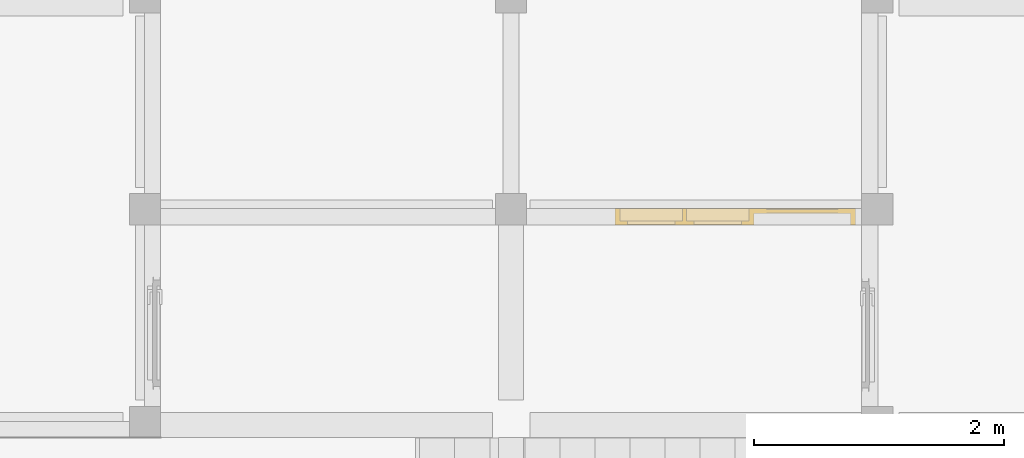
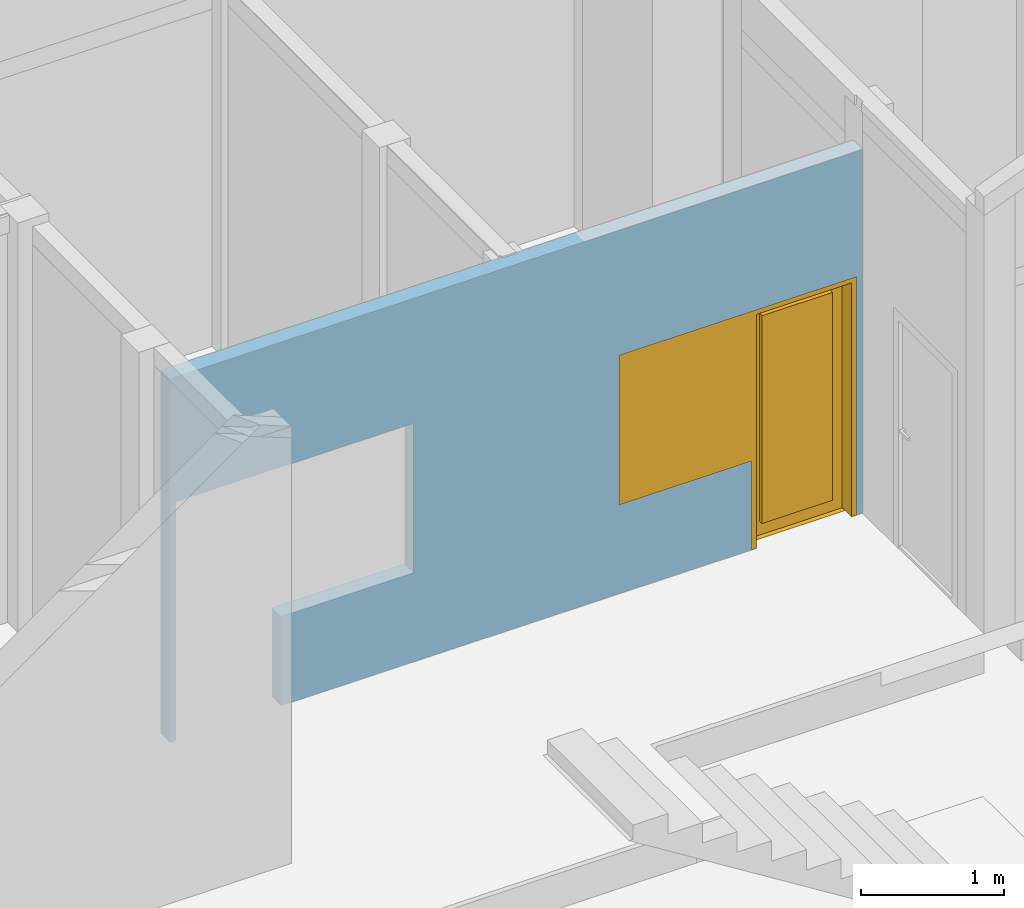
# One storey, part 4 of 8: 1 door, 2 openings, plus 1 element that does not belong to this part.
"""IFC4X3_ADD2 building model written with IfcOpenShell, lengths in millimetres."""

from ifc_helpers import new_model, entity, si_unit, converted_unit, frame, origin_with_axes, origin_2d_with_axis, place, context, subcontext, project, spatial, line, indexed_curve, outline, extrude, polygons, source, transform, mapped, material, layer, layer_set, layer_usage, type_object, type_shapes, element, fill, save


model = new_model("IFC4X3_ADD2")

# Units and contexts
model_context = context("Model", 3, precision=1e-05, world=origin_with_axes())
plan_context = context("Plan", 2, precision=1e-05, world=origin_2d_with_axis())
body_context = subcontext(model_context, "Body", "Model", "MODEL_VIEW")
ifc_project = project(units=[si_unit("VOLUMEUNIT", "CUBIC_METRE"), si_unit("LENGTHUNIT", "METRE", prefix="MILLI"), converted_unit("PLANEANGLEUNIT", "degree", entity("IfcReal", 0.0174532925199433), si_unit("PLANEANGLEUNIT", "RADIAN"), dimensions=[0, 0, 0, 0, 0, 0, 0]), si_unit("AREAUNIT", "SQUARE_METRE")], contexts=[model_context, plan_context])

# Site, building, storey
site_placement = place(None, origin_with_axes())
site = spatial("IfcSite", under=ifc_project, at=site_placement, Name="My Site")
building_placement = place(site_placement, origin_with_axes())
building = spatial("IfcBuilding", under=site, at=building_placement, Name="My Building")
storey_placement = place(building_placement, origin_with_axes())
storey = spatial("IfcBuildingStorey", under=building, at=storey_placement, Name="Lantai 2")

# Wall, openings, door
ifc_material_1 = material(Name="plester")
ifc_layer_1 = layer(ifc_material_1, 15.0000009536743, Priority=1)
ifc_material_2 = material(Name="brick", Category="Uncategorised")
ifc_layer_2 = layer(ifc_material_2, 100.0, Priority=4)
ifc_layer_3 = layer(ifc_material_1, 15.0000009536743)
ifc_layer_set = layer_set([ifc_layer_1, ifc_layer_2, ifc_layer_3])
ifc_layer_usage = layer_usage(ifc_layer_set, "AXIS2", "NEGATIVE", 0.0)
wall_type = type_object("IfcWallType", Name="WALL-130", PredefinedType="SOLIDWALL", material=ifc_layer_set)
wall_placement = place(storey_placement, frame((8520.00086834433, 1549.99983310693, 3500.00023841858), z_axis=(0.0, 0.0, 1.0), x_axis=(-0.999999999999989, 1.50995802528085e-07, 0.0)))
wall = element("IfcWall", 1, at=wall_placement, inside=storey, type_object=wall_type, material=ifc_layer_usage, Name="Wall", context=body_context, shape_type="SweptSolid", body=[
    extrude(outline(indexed_curve([(-1.17678988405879e-05, -130.000001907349), (-1.04100642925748e-05, -115.000000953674), (-15.0000113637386, -115.000000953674), (-15.0000023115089, -15.0000009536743), (-1.35783454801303e-06, -15.0000009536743), (0.0, 0.0), (5600.00099997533, 0.0), (5600.00099997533, -130.000001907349), (2850.0005965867, -130.000001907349), (2850.00059724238, -115.000000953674), (2735.0005962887, -115.000000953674), (2735.00059563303, -130.000001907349)], segments=[line(1, 2, 3, 4, 5, 6, 7, 8, 9, 10, 11, 12, 1)])), origin_with_axes(), (0.0, 0.0, 1.0), 3107.2108745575),
])
shared_shape_1 = source(origin_with_axes(), body_context, "Body", "SweptSolid", [
    extrude(outline(indexed_curve([(850.000183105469, 0.0), (0.0, 0.0), (0.0, 2039.99987792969), (1920.0, 2039.99987792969), (1920.0, 759.999938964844), (850.000183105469, 759.999938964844), (850.000183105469, 0.0)])), frame((-9.53674259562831e-07, -600.0, 0.0), z_axis=(0.0, -1.0, 0.0), x_axis=(1.0, 0.0, 0.0)), (0.0, 0.0, -1.0), 1200.0),
])
opening_1_placement = place(wall_placement, frame((5549.99940965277, -2.84826399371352, 0.0), z_axis=(0.0, 0.0, 1.0), x_axis=(-0.999999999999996, 8.74227765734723e-08, 0.0)))
element("IfcOpeningElement", 2, at=opening_1_placement, cuts=wall, Name="Opening", PredefinedType="OPENING", context=body_context, shape_type="MappedRepresentation", body=[
    mapped(shared_shape_1, transform((0.0, 0.0, 0.0), x_axis=(1.0, 0.0, 0.0), y_axis=(0.0, 1.0, 0.0), z_axis=(0.0, 0.0, 1.0), scale=1.0)),
])
shared_shape_2 = source(origin_with_axes(), body_context, "Body", "SweptSolid", [
    extrude(outline(indexed_curve([(849.998352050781, 759.999755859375), (1919.99755859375, 759.999755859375), (1919.99755859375, 2039.99987792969), (0.0, 2039.99987792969), (0.0, 0.0), (849.998352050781, -3.23401396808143e-12), (849.998352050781, 759.999755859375)])), frame((0.0, -600.0, 0.0), z_axis=(0.0, -1.0, 0.0), x_axis=(1.0, 0.0, 0.0)), (0.0, 0.0, -1.0), 1200.0),
])
opening_2_placement = place(wall_placement, frame((50.0006209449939, -130.0001068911, 0.0), z_axis=(0.0, 0.0, 1.0), x_axis=(1.0, 2.64697796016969e-23, 0.0)))
opening_2 = element("IfcOpeningElement", 3, at=opening_2_placement, cuts=wall, Name="Opening", PredefinedType="OPENING", context=body_context, shape_type="MappedRepresentation", body=[
    mapped(shared_shape_2, transform((0.0, 0.0, 0.0), x_axis=(1.0, 0.0, 0.0), y_axis=(0.0, 1.0, 0.0), z_axis=(0.0, 0.0, 1.0), scale=1.0)),
])
ifc_material_3 = material(Name="Kayu")
door_type = type_object("IfcDoorType", Name="xxxx", OperationType="NOTDEFINED", PredefinedType="DOOR")
shared_shape_3 = source(origin_with_axes(), body_context, "Body", "Tessellation", [
    polygons([(0.0, 130.000091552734, 1999.99926757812), (0.0, 130.000091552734, 0.0), (40.0009078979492, 130.000091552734, 0.0), (40.0009078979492, 130.000091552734, 1999.99926757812), (40.0009078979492, 130.000091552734, 2039.99987792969), (0.0, 130.000091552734, 2039.99987792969), (810.001281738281, 130.000091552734, 1999.99926757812), (810.001281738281, 130.000091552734, 2039.99987792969), (849.998352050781, 130.000091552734, 1999.99926757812), (849.998352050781, 130.000091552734, 2039.99987792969), (810.001281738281, 130.000091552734, 759.999877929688), (810.001281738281, 130.000091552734, 0.0), (849.998352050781, 130.000091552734, 0.0), (849.998352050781, 130.000091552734, 759.999877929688), (1349.99829101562, 130.000091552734, 1999.99926757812), (1349.99829101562, 130.000091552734, 2039.99987792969), (1380.00085449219, 130.000091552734, 1999.99926757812), (1380.00085449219, 130.000091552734, 2039.99987792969), (1349.99829101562, 130.000091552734, 799.999816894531), (1380.00085449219, 130.000091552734, 799.999816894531), (1880.00085449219, 129.999633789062, 1999.99926757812), (1880.00085449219, 129.999633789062, 2039.99987792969), (1919.99792480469, 129.999633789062, 1999.99926757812), (1919.99792480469, 129.999633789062, 2039.99987792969), (1880.00085449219, 129.999633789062, 799.999816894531), (1919.99792480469, 129.999633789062, 799.999816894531), (1880.00085449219, 129.999633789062, 759.999877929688), (1919.99792480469, 129.999633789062, 759.999877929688), (1349.99829101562, 130.000091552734, 759.999877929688), (1380.00085449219, 130.000091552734, 759.999877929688), (810.001281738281, 130.000091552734, 799.999816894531), (849.998352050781, 130.000091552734, 799.999816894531), (0.0, 0.0, 0.0), (40.0009078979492, 0.0, 1999.99926757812), (40.0009078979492, 0.0, 0.0), (0.0, 0.0, 1999.99926757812), (0.0, 0.0, 2039.99987792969), (40.0009078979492, 0.0, 2039.99987792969), (810.001281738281, 0.0, 2039.99987792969), (810.001281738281, 0.0, 1999.99926757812), (849.998352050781, 0.0, 2039.99987792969), (849.998352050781, 0.0, 1999.99926757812), (810.001281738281, 0.0, 0.0), (810.001281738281, 0.0, 759.999877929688), (849.998352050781, 0.0, 759.999877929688), (849.998352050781, 0.0, 0.0), (1349.99829101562, 0.0, 2039.99987792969), (1349.99829101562, 0.0, 1999.99926757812), (1380.00085449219, 0.0, 2039.99987792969), (1380.00085449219, 0.0, 1999.99926757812), (1349.99829101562, 0.0, 799.999816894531), (1380.00085449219, 0.0, 799.999816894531), (1880.00085449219, 0.0, 2039.99987792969), (1880.00085449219, 0.0, 1999.99926757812), (1919.99792480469, 0.0, 2039.99987792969), (1919.99792480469, 0.0, 1999.99926757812), (1880.00085449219, 0.0, 799.999816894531), (1919.99792480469, 0.0, 799.999816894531), (1880.00085449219, 0.0, 759.999877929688), (1919.99792480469, 0.0, 759.999877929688), (1349.99829101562, 0.0, 759.999877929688), (1380.00085449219, 0.0, 759.999877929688), (810.001281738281, 0.0, 799.999816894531), (849.998352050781, 0.0, 799.999816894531)], [[[3, 1, 2]], [[3, 4, 1]], [[6, 4, 5]], [[6, 1, 4]], [[5, 4, 7]], [[7, 8, 5]], [[7, 9, 8]], [[9, 10, 8]], [[13, 11, 12]], [[13, 14, 11]], [[10, 9, 15]], [[15, 16, 10]], [[15, 17, 16]], [[17, 18, 16]], [[20, 15, 19]], [[15, 20, 17]], [[18, 17, 21]], [[18, 21, 22]], [[21, 23, 22]], [[23, 24, 22]], [[26, 21, 25]], [[21, 26, 23]], [[28, 25, 27]], [[25, 28, 26]], [[30, 19, 29]], [[19, 30, 20]], [[11, 14, 31]], [[31, 14, 32]], [[32, 7, 31]], [[7, 32, 9]], [[14, 29, 19]], [[32, 14, 19]], [[25, 20, 27]], [[20, 30, 27]], [[34, 35, 33]], [[36, 34, 33]], [[38, 36, 37]], [[36, 38, 34]], [[39, 34, 38]], [[39, 40, 34]], [[39, 41, 40]], [[41, 42, 40]], [[45, 43, 44]], [[45, 46, 43]], [[42, 41, 47]], [[47, 48, 42]], [[47, 49, 48]], [[49, 50, 48]], [[48, 50, 51]], [[51, 50, 52]], [[50, 49, 53]], [[53, 54, 50]], [[53, 55, 54]], [[55, 56, 54]], [[54, 56, 57]], [[57, 56, 58]], [[57, 58, 59]], [[59, 58, 60]], [[51, 52, 61]], [[61, 52, 62]], [[64, 44, 63]], [[44, 64, 45]], [[40, 42, 63]], [[63, 42, 64]], [[45, 64, 51]], [[51, 61, 45]], [[62, 52, 57]], [[62, 57, 59]], [[15, 48, 19]], [[48, 51, 19]], [[52, 17, 20]], [[17, 52, 50]], [[41, 8, 10]], [[8, 41, 39]], [[21, 17, 50]], [[54, 21, 50]], [[13, 12, 43]], [[43, 46, 13]], [[11, 44, 12]], [[12, 44, 43]], [[3, 35, 4]], [[4, 35, 34]], [[53, 18, 22]], [[18, 53, 49]], [[7, 40, 31]], [[40, 63, 31]], [[1, 36, 2]], [[2, 36, 33]], [[24, 23, 56]], [[24, 56, 55]], [[13, 46, 14]], [[14, 46, 45]], [[63, 11, 31]], [[11, 63, 44]], [[3, 2, 33]], [[33, 35, 3]], [[55, 22, 24]], [[22, 55, 53]], [[15, 9, 42]], [[48, 15, 42]], [[64, 9, 32]], [[9, 64, 42]], [[38, 6, 5]], [[6, 38, 37]], [[47, 10, 16]], [[10, 47, 41]], [[21, 54, 25]], [[54, 57, 25]], [[29, 14, 45]], [[61, 29, 45]], [[37, 1, 6]], [[1, 37, 36]], [[58, 23, 26]], [[23, 58, 56]], [[32, 19, 51]], [[64, 32, 51]], [[30, 29, 61]], [[61, 62, 30]], [[49, 16, 18]], [[16, 49, 47]], [[62, 27, 30]], [[27, 62, 59]], [[7, 4, 34]], [[40, 7, 34]], [[28, 27, 59]], [[59, 60, 28]], [[57, 20, 25]], [[20, 57, 52]], [[39, 5, 8]], [[5, 39, 38]], [[60, 26, 28]], [[26, 60, 58]]]),
    polygons([(1349.99829101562, 99.9998931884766, 1939.99938964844), (1349.99829101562, 130.000091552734, 1939.99938964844), (1349.99829101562, 130.000091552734, 1999.99926757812), (1349.99829101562, 99.9998931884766, 859.999694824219), (1349.99829101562, 99.9998931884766, 1999.99926757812), (1290.00073242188, 99.9998931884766, 1939.99938964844), (1290.00073242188, 99.9998931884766, 859.999694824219), (909.999755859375, 99.9998931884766, 859.999694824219), (909.999755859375, 130.000091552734, 859.999694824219), (909.999755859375, 99.9998931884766, 799.999694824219), (1290.00073242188, 99.9998931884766, 799.999694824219), (1290.00073242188, 130.000091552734, 859.999694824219), (1290.00073242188, 130.000091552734, 799.999694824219), (1349.99829101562, 130.000091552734, 799.999694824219), (1349.99829101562, 130.000091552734, 859.999694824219), (1290.00073242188, 130.000091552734, 1939.99938964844), (1290.00073242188, 130.000091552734, 1999.99926757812), (909.999755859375, 130.000091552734, 1999.99926757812), (909.999755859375, 130.000091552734, 1939.99938964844), (909.999755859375, 99.9998931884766, 1939.99938964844), (1290.00073242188, 99.9998931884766, 1999.99926757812), (909.999755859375, 99.9998931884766, 1999.99926757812), (849.998352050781, 99.9998931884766, 1939.99938964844), (849.998352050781, 99.9998931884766, 859.999694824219), (849.998352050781, 130.000091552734, 859.999694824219), (849.998352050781, 99.9998931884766, 799.999694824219), (849.998352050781, 130.000091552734, 799.999694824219), (909.999755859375, 130.000091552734, 799.999694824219), (849.998352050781, 130.000091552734, 1939.99938964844), (849.998352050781, 130.000091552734, 1999.99926757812), (849.998352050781, 99.9998931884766, 1999.99926757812), (1349.99829101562, 99.9998931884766, 799.999694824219)], [[[2, 4, 1]], [[1, 3, 2]], [[3, 1, 5]], [[7, 1, 4]], [[6, 5, 1]], [[6, 1, 7]], [[10, 8, 7]], [[8, 9, 7]], [[9, 12, 7]], [[10, 7, 11]], [[4, 11, 7]], [[12, 6, 7]], [[9, 13, 12]], [[14, 12, 13]], [[14, 15, 12]], [[15, 16, 12]], [[16, 6, 12]], [[15, 2, 16]], [[2, 17, 16]], [[18, 16, 17]], [[18, 19, 16]], [[16, 19, 20]], [[16, 20, 6]], [[20, 21, 6]], [[21, 20, 22]], [[23, 22, 20]], [[23, 20, 24]], [[24, 20, 8]], [[19, 8, 20]], [[25, 23, 24]], [[25, 24, 27]], [[27, 24, 26]], [[26, 24, 8]], [[26, 28, 27]], [[28, 25, 27]], [[13, 28, 10]], [[10, 28, 26]], [[9, 28, 13]], [[28, 9, 25]], [[8, 10, 26]], [[29, 23, 25]], [[25, 9, 29]], [[31, 29, 30]], [[30, 29, 19]], [[9, 19, 29]], [[29, 31, 23]], [[23, 31, 22]], [[31, 30, 22]], [[22, 30, 18]], [[19, 18, 30]], [[22, 18, 21]], [[17, 5, 21]], [[5, 6, 21]], [[18, 17, 21]], [[9, 8, 19]], [[17, 2, 3]], [[5, 17, 3]], [[15, 4, 2]], [[15, 32, 4]], [[14, 32, 15]], [[11, 4, 32]], [[32, 14, 11]], [[11, 14, 13]], [[13, 10, 11]]]),
    polygons([(139.999359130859, 39.9999542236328, 119.999992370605), (709.998962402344, 39.9999542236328, 119.999992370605), (139.999359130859, 0.0, 119.999992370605), (139.999359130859, 0.0, 1899.99914550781), (139.999359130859, 39.9999542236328, 1899.99914550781), (40.0009078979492, 39.9999542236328, 119.999992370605), (40.0009078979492, 39.9999542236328, 0.0), (139.999359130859, 39.9999542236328, 0.0), (139.999359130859, 0.0, 0.0), (709.998962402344, 0.0, 0.0), (709.998962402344, 39.9999542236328, 0.0), (809.997436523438, 0.0, 0.0), (809.997436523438, 39.9999542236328, 0.0), (809.997436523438, 39.9999542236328, 119.999992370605), (809.997436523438, 0.0, 119.999992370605), (809.997436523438, 0.0, 1899.99914550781), (809.997436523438, 39.9999542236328, 1899.99914550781), (809.997436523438, 0.0, 1999.99926757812), (809.997436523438, 39.9999542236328, 1999.99926757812), (709.998962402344, 39.9999542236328, 1899.99914550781), (709.998962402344, 39.9999542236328, 1999.99926757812), (709.998962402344, 0.0, 1899.99914550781), (709.998962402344, 0.0, 119.999992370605), (709.998962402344, 0.0, 1999.99926757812), (139.999359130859, 0.0, 1999.99926757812), (139.999359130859, 39.9999542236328, 1999.99926757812), (40.0009078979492, 0.0, 1999.99926757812), (40.0009078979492, 39.9999542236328, 1999.99926757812), (40.0009078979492, 0.0, 1899.99914550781), (40.0009078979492, 0.0, 119.999992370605), (40.0009078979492, 39.9999542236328, 1899.99914550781), (40.0009078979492, 0.0, 0.0)], [[[8, 1, 2]], [[2, 1, 3]], [[1, 4, 3]], [[5, 4, 1]], [[5, 1, 6]], [[1, 7, 6]], [[7, 1, 8]], [[9, 7, 8]], [[9, 8, 10]], [[10, 8, 11]], [[8, 2, 11]], [[11, 12, 10]], [[11, 13, 12]], [[11, 14, 13]], [[2, 14, 11]], [[14, 15, 13]], [[14, 16, 15]], [[17, 16, 14]], [[2, 17, 14]], [[17, 18, 16]], [[19, 18, 17]], [[19, 17, 20]], [[20, 17, 2]], [[21, 19, 20]], [[5, 21, 20]], [[22, 5, 20]], [[20, 23, 22]], [[2, 23, 20]], [[10, 23, 3]], [[23, 2, 3]], [[10, 12, 23]], [[23, 12, 15]], [[23, 15, 22]], [[22, 15, 16]], [[22, 16, 24]], [[25, 22, 24]], [[25, 4, 22]], [[4, 5, 22]], [[24, 21, 25]], [[25, 21, 26]], [[25, 26, 27]], [[27, 4, 25]], [[29, 4, 27]], [[27, 26, 28]], [[28, 29, 27]], [[29, 3, 4]], [[30, 3, 29]], [[31, 30, 29]], [[29, 28, 31]], [[26, 5, 31]], [[26, 31, 28]], [[6, 30, 31]], [[31, 5, 6]], [[9, 3, 30]], [[32, 9, 30]], [[6, 32, 30]], [[7, 32, 6]], [[32, 7, 9]], [[21, 5, 26]], [[24, 16, 18]], [[18, 19, 24]], [[24, 19, 21]], [[13, 15, 12]], [[3, 9, 10]]]),
    polygons([(139.999359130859, 35.000316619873, 119.999992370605), (709.998962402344, 34.9998397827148, 119.999992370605), (139.999359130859, 5.00011348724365, 119.999992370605), (139.999359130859, 5.00011348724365, 1899.99914550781), (139.999359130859, 35.000316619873, 1899.99914550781), (709.998962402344, 5.00011348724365, 1899.99914550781), (709.998962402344, 34.9998397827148, 1899.99914550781), (709.998962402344, 5.00011348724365, 119.999992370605)], [[[5, 1, 2]], [[2, 1, 3]], [[1, 4, 3]], [[5, 4, 1]], [[4, 5, 6]], [[6, 5, 7]], [[2, 7, 5]], [[7, 8, 6]], [[2, 8, 7]], [[3, 6, 8]], [[8, 2, 3]], [[6, 3, 4]]]),
    polygons([(1290.00073242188, 130.000091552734, 1939.99938964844), (909.999755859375, 130.000091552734, 1939.99938964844), (1290.00073242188, 124.999984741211, 1939.99938964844), (1290.00073242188, 124.999984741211, 859.999694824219), (1290.00073242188, 130.000091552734, 859.999694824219), (909.999755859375, 124.999984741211, 859.999694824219), (909.999755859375, 130.000091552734, 859.999694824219), (909.999755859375, 124.999984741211, 1939.99938964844)], [[[2, 5, 1]], [[2, 1, 3]], [[1, 4, 3]], [[5, 4, 1]], [[5, 6, 4]], [[6, 5, 7]], [[7, 5, 2]], [[7, 8, 6]], [[2, 8, 7]], [[8, 3, 6]], [[8, 2, 3]], [[6, 3, 4]]]),
    polygons([(1879.9970703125, 99.9998931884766, 1939.99938964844), (1879.9970703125, 129.999633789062, 1939.99938964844), (1879.9970703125, 129.999633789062, 1999.99926757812), (1879.9970703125, 99.9998931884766, 859.999694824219), (1879.9970703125, 99.9998931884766, 1999.99926757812), (1819.99951171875, 99.9998931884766, 1939.99938964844), (1819.99951171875, 99.9998931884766, 859.999694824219), (1439.99841308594, 99.9998931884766, 859.999694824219), (1439.99841308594, 130.000091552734, 859.999694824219), (1439.99841308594, 99.9998931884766, 799.999694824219), (1819.99951171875, 99.9998931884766, 799.999694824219), (1819.99951171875, 129.999633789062, 859.999694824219), (1819.99951171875, 129.999633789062, 799.999694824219), (1879.9970703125, 129.999633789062, 799.999694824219), (1879.9970703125, 129.999633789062, 859.999694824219), (1819.99951171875, 129.999633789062, 1939.99938964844), (1819.99951171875, 129.999633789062, 1999.99926757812), (1439.99841308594, 130.000091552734, 1999.99926757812), (1439.99841308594, 130.000091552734, 1939.99938964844), (1439.99841308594, 99.9998931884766, 1939.99938964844), (1819.99951171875, 99.9998931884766, 1999.99926757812), (1439.99841308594, 99.9998931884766, 1999.99926757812), (1379.9970703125, 99.9998931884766, 1939.99938964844), (1379.9970703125, 99.9998931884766, 859.999694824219), (1379.9970703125, 130.000091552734, 859.999694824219), (1379.9970703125, 99.9998931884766, 799.999694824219), (1379.9970703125, 130.000091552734, 799.999694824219), (1439.99841308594, 130.000091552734, 799.999694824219), (1379.9970703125, 130.000091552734, 1939.99938964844), (1379.9970703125, 130.000091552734, 1999.99926757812), (1379.9970703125, 99.9998931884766, 1999.99926757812), (1879.9970703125, 99.9998931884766, 799.999694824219)], [[[2, 4, 1]], [[1, 3, 2]], [[3, 1, 5]], [[7, 1, 4]], [[6, 5, 1]], [[6, 1, 7]], [[10, 8, 7]], [[8, 9, 7]], [[9, 12, 7]], [[10, 7, 11]], [[4, 11, 7]], [[12, 6, 7]], [[14, 12, 13]], [[12, 9, 13]], [[14, 15, 12]], [[15, 16, 12]], [[16, 6, 12]], [[15, 2, 16]], [[2, 17, 16]], [[17, 18, 16]], [[18, 19, 16]], [[16, 19, 20]], [[16, 20, 6]], [[20, 21, 6]], [[21, 20, 22]], [[23, 22, 20]], [[23, 20, 24]], [[24, 20, 8]], [[19, 8, 20]], [[25, 23, 24]], [[25, 24, 27]], [[27, 24, 26]], [[26, 24, 8]], [[26, 28, 27]], [[28, 25, 27]], [[13, 28, 10]], [[10, 28, 26]], [[9, 28, 13]], [[28, 9, 25]], [[8, 10, 26]], [[29, 23, 25]], [[25, 9, 29]], [[31, 29, 30]], [[30, 29, 19]], [[9, 19, 29]], [[29, 31, 23]], [[23, 31, 22]], [[31, 30, 22]], [[22, 30, 18]], [[19, 18, 30]], [[22, 18, 21]], [[17, 5, 21]], [[5, 6, 21]], [[18, 17, 21]], [[9, 8, 19]], [[17, 2, 3]], [[5, 17, 3]], [[15, 4, 2]], [[15, 32, 4]], [[14, 32, 15]], [[11, 4, 32]], [[32, 14, 11]], [[11, 14, 13]], [[13, 10, 11]]]),
    polygons([(1819.99951171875, 129.999633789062, 1939.99938964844), (1439.99841308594, 130.000091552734, 1939.99938964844), (1819.99951171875, 124.999984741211, 1939.99938964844), (1819.99951171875, 124.999984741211, 859.999694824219), (1819.99951171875, 129.999633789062, 859.999694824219), (1439.99841308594, 124.999984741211, 859.999694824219), (1439.99841308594, 130.000091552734, 859.999694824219), (1439.99841308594, 124.999984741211, 1939.99938964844)], [[[1, 2, 5]], [[2, 1, 3]], [[1, 4, 3]], [[5, 4, 1]], [[5, 6, 4]], [[6, 5, 7]], [[2, 7, 5]], [[7, 8, 6]], [[2, 8, 7]], [[8, 3, 6]], [[8, 2, 3]], [[6, 3, 4]]]),
])
type_shapes(door_type, [shared_shape_3])
door_placement = place(opening_2_placement, frame((-1.77635683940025e-12, 2.22044604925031e-13, 0.0), z_axis=(0.0, 0.0, 1.0), x_axis=(1.0, 0.0, 0.0)))
door = element("IfcDoor", 4, at=door_placement, inside=storey, type_object=door_type, material=ifc_material_3, Name="Door", context=body_context, shape_type="MappedRepresentation", body=[
    mapped(shared_shape_3, transform((0.0, 0.0, 0.0), x_axis=(1.0, 0.0, 0.0), y_axis=(0.0, 1.0, 0.0), z_axis=(0.0, 0.0, 1.0), scale=1.0)),
])
fill(opening_2, door)

save(model, "model.ifc")
